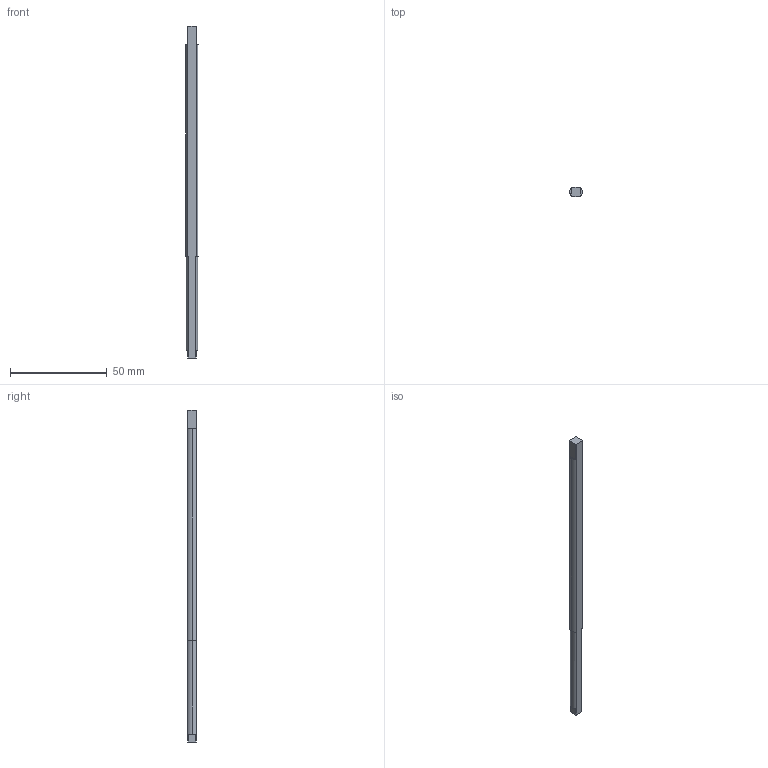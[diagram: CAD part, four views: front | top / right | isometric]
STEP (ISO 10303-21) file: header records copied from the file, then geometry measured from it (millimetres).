
FILE_DESCRIPTION (( 'STEP AP214' ), '1' );
FILE_NAME ('Ì44_Âàë_ìåæîñåâîé_Ï.STEP', '2019-03-21T15:15:34', ( '' ), ( '' ), 'SwSTEP 2.0', 'SolidWorks 2018', '' );
FILE_SCHEMA (( 'AUTOMOTIVE_DESIGN' ));
Length unit declared in the file: millimetre
Products named in the file (1): Ì44_Âàë_ìåæîñåâîé_Ï
Bounding box: 6.49 x 4.6 x 171.8 mm (x, y, z)
Volume: 4440.7 mm3; surface area: 3355.2 mm2
Topology: 1 solids, 1 shells, 25 faces, 64 edges, 42 vertices
Faces by surface type: plane 15, cylinder 8, cone 2
Entity records: 802 total; most frequent: DIRECTION 142, CARTESIAN_POINT 132, ORIENTED_EDGE 128, EDGE_CURVE 64, AXIS2_PLACEMENT_3D 52, VERTEX_POINT 42, LINE 38, VECTOR 38
